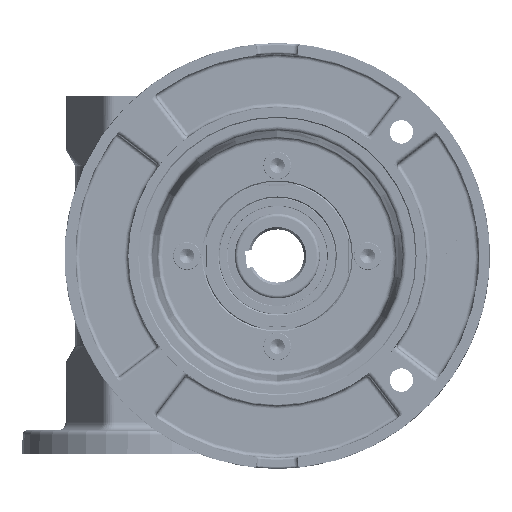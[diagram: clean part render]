
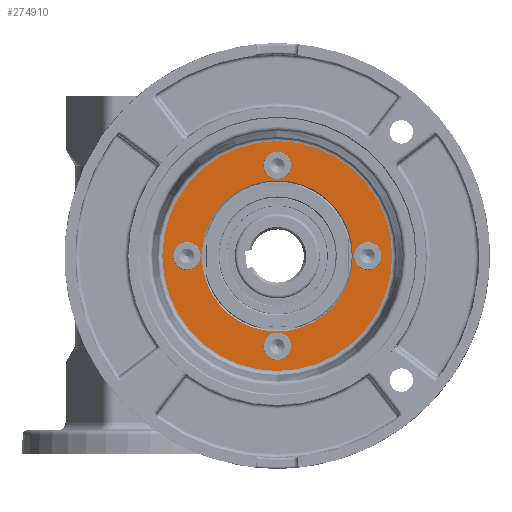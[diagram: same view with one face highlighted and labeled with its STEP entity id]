
A CAD part, left-side view. The second image highlights one B-rep face of the part: STEP entity #274910.
In plain terms, the highlighted planar face has unit normal (-1, 0, 0).
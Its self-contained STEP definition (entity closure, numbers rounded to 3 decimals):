
#270193 = VERTEX_POINT ( 'NONE', #316438 ) ;
#270199 = EDGE_CURVE ( 'NONE', #270193, #270202, #316428, .T. ) ;
#270202 = VERTEX_POINT ( 'NONE', #316415 ) ;
#270296 = VERTEX_POINT ( 'NONE', #316721 ) ;
#270299 = EDGE_CURVE ( 'NONE', #270296, #270303, #316710, .T. ) ;
#270303 = VERTEX_POINT ( 'NONE', #316697 ) ;
#270355 = VERTEX_POINT ( 'NONE', #316846 ) ;
#270361 = EDGE_CURVE ( 'NONE', #270355, #270364, #316832, .T. ) ;
#270364 = VERTEX_POINT ( 'NONE', #316819 ) ;
#270412 = VERTEX_POINT ( 'NONE', #316951 ) ;
#270418 = EDGE_CURVE ( 'NONE', #270412, #270422, #316940, .T. ) ;
#270422 = VERTEX_POINT ( 'NONE', #316927 ) ;
#270503 = VERTEX_POINT ( 'NONE', #317290 ) ;
#270507 = EDGE_CURVE ( 'NONE', #270509, #270503, #317279, .T. ) ;
#270509 = VERTEX_POINT ( 'NONE', #317268 ) ;
#271835 = EDGE_CURVE ( 'NONE', #271838, #271841, #320578, .T. ) ;
#271838 = VERTEX_POINT ( 'NONE', #320571 ) ;
#271841 = VERTEX_POINT ( 'NONE', #320693 ) ;
#274664 = ORIENTED_EDGE ( 'NONE', *, *, #274667, .F. ) ;
#274667 = EDGE_CURVE ( 'NONE', #270422, #270412, #329676, .T. ) ;
#274670 = ORIENTED_EDGE ( 'NONE', *, *, #270418, .F. ) ;
#274807 = ORIENTED_EDGE ( 'NONE', *, *, #274810, .T. ) ;
#274810 = EDGE_CURVE ( 'NONE', #271841, #271838, #329932, .T. ) ;
#274813 = ORIENTED_EDGE ( 'NONE', *, *, #271835, .T. ) ;
#274853 = EDGE_LOOP ( 'NONE', ( #274856, #274862 ) ) ;
#274856 = ORIENTED_EDGE ( 'NONE', *, *, #274859, .F. ) ;
#274859 = EDGE_CURVE ( 'NONE', #270364, #270355, #330071, .T. ) ;
#274862 = ORIENTED_EDGE ( 'NONE', *, *, #270361, .F. ) ;
#274867 = EDGE_LOOP ( 'NONE', ( #274870, #274876 ) ) ;
#274870 = ORIENTED_EDGE ( 'NONE', *, *, #274872, .F. ) ;
#274872 = EDGE_CURVE ( 'NONE', #270303, #270296, #330049, .T. ) ;
#274876 = ORIENTED_EDGE ( 'NONE', *, *, #270299, .F. ) ;
#274881 = EDGE_LOOP ( 'NONE', ( #274884, #274887 ) ) ;
#274884 = ORIENTED_EDGE ( 'NONE', *, *, #270507, .T. ) ;
#274887 = ORIENTED_EDGE ( 'NONE', *, *, #274890, .T. ) ;
#274890 = EDGE_CURVE ( 'NONE', #270503, #270509, #330035, .T. ) ;
#274894 = EDGE_LOOP ( 'NONE', ( #274807, #274813 ) ) ;
#274910 = ADVANCED_FACE ( 'NONE', ( #330186, #330184, #330181, #330178, #330176, #330175 ), #330023, .F. ) ;
#274915 = EDGE_LOOP ( 'NONE', ( #274917, #274924 ) ) ;
#274917 = ORIENTED_EDGE ( 'NONE', *, *, #274920, .F. ) ;
#274920 = EDGE_CURVE ( 'NONE', #270202, #270193, #330154, .T. ) ;
#274924 = ORIENTED_EDGE ( 'NONE', *, *, #270199, .F. ) ;
#274928 = EDGE_LOOP ( 'NONE', ( #274664, #274670 ) ) ;
#316415 = CARTESIAN_POINT ( 'NONE',  ( -61., -17.5, 4.5 ) ) ;
#316418 = DIRECTION ( 'NONE',  ( 0., 0., 1. ) ) ;
#316421 = DIRECTION ( 'NONE',  ( -1., 0., 0. ) ) ;
#316423 = CARTESIAN_POINT ( 'NONE',  ( -61., -17.5, 0. ) ) ;
#316426 = AXIS2_PLACEMENT_3D ( 'NONE', #316423, #316421, #316418 ) ;
#316428 = CIRCLE ( 'NONE', #316426, 4.5 ) ;
#316438 = CARTESIAN_POINT ( 'NONE',  ( -61., -17.5, -4.5 ) ) ;
#316697 = CARTESIAN_POINT ( 'NONE',  ( -61., -60., -38. ) ) ;
#316700 = DIRECTION ( 'NONE',  ( 0., 0., 1. ) ) ;
#316703 = DIRECTION ( 'NONE',  ( -1., 0., 0. ) ) ;
#316706 = CARTESIAN_POINT ( 'NONE',  ( -61., -60., -42.5 ) ) ;
#316709 = AXIS2_PLACEMENT_3D ( 'NONE', #316706, #316703, #316700 ) ;
#316710 = CIRCLE ( 'NONE', #316709, 4.5 ) ;
#316721 = CARTESIAN_POINT ( 'NONE',  ( -61., -60., -47. ) ) ;
#316819 = CARTESIAN_POINT ( 'NONE',  ( -61., -102.5, 4.5 ) ) ;
#316822 = DIRECTION ( 'NONE',  ( 0., 0., 1. ) ) ;
#316825 = DIRECTION ( 'NONE',  ( -1., 0., 0. ) ) ;
#316826 = CARTESIAN_POINT ( 'NONE',  ( -61., -102.5, 0. ) ) ;
#316829 = AXIS2_PLACEMENT_3D ( 'NONE', #316826, #316825, #316822 ) ;
#316832 = CIRCLE ( 'NONE', #316829, 4.5 ) ;
#316846 = CARTESIAN_POINT ( 'NONE',  ( -61., -102.5, -4.5 ) ) ;
#316927 = CARTESIAN_POINT ( 'NONE',  ( -61., -60., 47. ) ) ;
#316930 = DIRECTION ( 'NONE',  ( 0., 0., 1. ) ) ;
#316933 = DIRECTION ( 'NONE',  ( -1., 0., 0. ) ) ;
#316936 = CARTESIAN_POINT ( 'NONE',  ( -61., -60., 42.5 ) ) ;
#316938 = AXIS2_PLACEMENT_3D ( 'NONE', #316936, #316933, #316930 ) ;
#316940 = CIRCLE ( 'NONE', #316938, 4.5 ) ;
#316951 = CARTESIAN_POINT ( 'NONE',  ( -61., -60., 38. ) ) ;
#317268 = CARTESIAN_POINT ( 'NONE',  ( -61., -60., 35.5 ) ) ;
#317270 = DIRECTION ( 'NONE',  ( 0., 0., -1. ) ) ;
#317272 = DIRECTION ( 'NONE',  ( 1., 0., 0. ) ) ;
#317275 = CARTESIAN_POINT ( 'NONE',  ( -61., -60., 0. ) ) ;
#317276 = AXIS2_PLACEMENT_3D ( 'NONE', #317275, #317272, #317270 ) ;
#317279 = CIRCLE ( 'NONE', #317276, 35.5 ) ;
#317290 = CARTESIAN_POINT ( 'NONE',  ( -61., -60., -35.5 ) ) ;
#320571 = CARTESIAN_POINT ( 'NONE',  ( -61., -60., -54.027 ) ) ;
#320573 = DIRECTION ( 'NONE',  ( 0., 0., 1. ) ) ;
#320575 = DIRECTION ( 'NONE',  ( -1., 0., 0. ) ) ;
#320576 = CARTESIAN_POINT ( 'NONE',  ( -61., -60., 0. ) ) ;
#320577 = AXIS2_PLACEMENT_3D ( 'NONE', #320576, #320575, #320573 ) ;
#320578 = CIRCLE ( 'NONE', #320577, 54.027 ) ;
#320693 = CARTESIAN_POINT ( 'NONE',  ( -61., -60., 54.027 ) ) ;
#329671 = DIRECTION ( 'NONE',  ( 0., 0., 1. ) ) ;
#329672 = DIRECTION ( 'NONE',  ( -1., 0., 0. ) ) ;
#329673 = CARTESIAN_POINT ( 'NONE',  ( -61., -60., 42.5 ) ) ;
#329675 = AXIS2_PLACEMENT_3D ( 'NONE', #329673, #329672, #329671 ) ;
#329676 = CIRCLE ( 'NONE', #329675, 4.5 ) ;
#329923 = DIRECTION ( 'NONE',  ( 0., 0., 1. ) ) ;
#329925 = DIRECTION ( 'NONE',  ( -1., 0., 0. ) ) ;
#329928 = CARTESIAN_POINT ( 'NONE',  ( -61., -60., 0. ) ) ;
#329929 = AXIS2_PLACEMENT_3D ( 'NONE', #329928, #329925, #329923 ) ;
#329932 = CIRCLE ( 'NONE', #329929, 54.027 ) ;
#330023 = PLANE ( 'NONE',  #330171 ) ;
#330028 = DIRECTION ( 'NONE',  ( 0., 0., -1. ) ) ;
#330030 = DIRECTION ( 'NONE',  ( 1., 0., 0. ) ) ;
#330032 = CARTESIAN_POINT ( 'NONE',  ( -61., -60., 0. ) ) ;
#330033 = AXIS2_PLACEMENT_3D ( 'NONE', #330032, #330030, #330028 ) ;
#330035 = CIRCLE ( 'NONE', #330033, 35.5 ) ;
#330043 = DIRECTION ( 'NONE',  ( 0., 0., 1. ) ) ;
#330044 = DIRECTION ( 'NONE',  ( -1., 0., 0. ) ) ;
#330046 = CARTESIAN_POINT ( 'NONE',  ( -61., -60., -42.5 ) ) ;
#330048 = AXIS2_PLACEMENT_3D ( 'NONE', #330046, #330044, #330043 ) ;
#330049 = CIRCLE ( 'NONE', #330048, 4.5 ) ;
#330054 = DIRECTION ( 'NONE',  ( 0., 0., 1. ) ) ;
#330056 = DIRECTION ( 'NONE',  ( -1., 0., 0. ) ) ;
#330058 = CARTESIAN_POINT ( 'NONE',  ( -61., -102.5, 0. ) ) ;
#330059 = AXIS2_PLACEMENT_3D ( 'NONE', #330058, #330056, #330054 ) ;
#330071 = CIRCLE ( 'NONE', #330059, 4.5 ) ;
#330142 = DIRECTION ( 'NONE',  ( 0., 0., 1. ) ) ;
#330146 = DIRECTION ( 'NONE',  ( -1., 0., 0. ) ) ;
#330149 = CARTESIAN_POINT ( 'NONE',  ( -61., -17.5, 0. ) ) ;
#330152 = AXIS2_PLACEMENT_3D ( 'NONE', #330149, #330146, #330142 ) ;
#330154 = CIRCLE ( 'NONE', #330152, 4.5 ) ;
#330161 = DIRECTION ( 'NONE',  ( 0., 0., -1. ) ) ;
#330164 = DIRECTION ( 'NONE',  ( 1., 0., 0. ) ) ;
#330168 = CARTESIAN_POINT ( 'NONE',  ( -61., -5.973, 0. ) ) ;
#330171 = AXIS2_PLACEMENT_3D ( 'NONE', #330168, #330164, #330161 ) ;
#330175 = FACE_OUTER_BOUND ( 'NONE', #274894, .T. ) ;
#330176 = FACE_BOUND ( 'NONE', #274881, .T. ) ;
#330178 = FACE_BOUND ( 'NONE', #274867, .T. ) ;
#330181 = FACE_BOUND ( 'NONE', #274853, .T. ) ;
#330184 = FACE_BOUND ( 'NONE', #274928, .T. ) ;
#330186 = FACE_BOUND ( 'NONE', #274915, .T. ) ;
